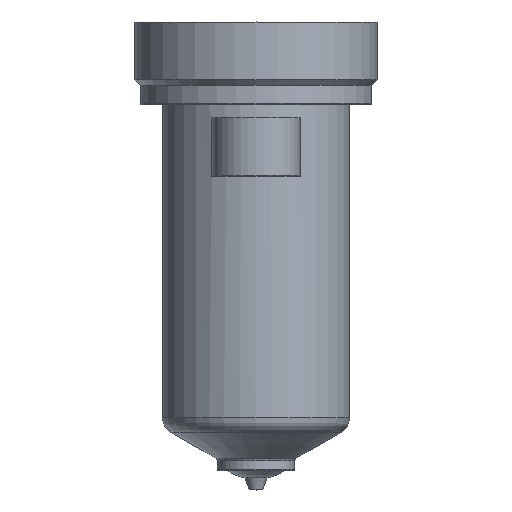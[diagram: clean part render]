
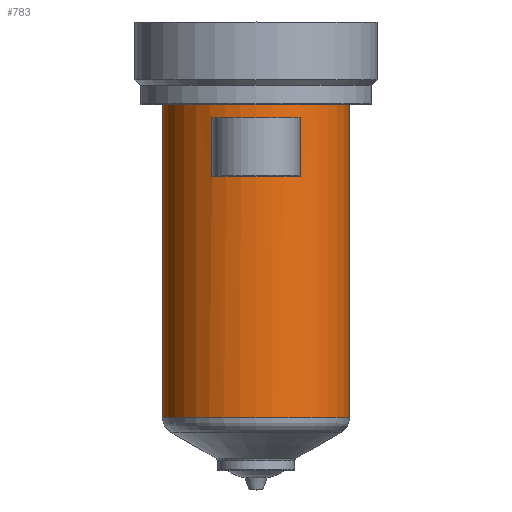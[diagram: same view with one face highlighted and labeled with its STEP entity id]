
A CAD part, top view. The second image highlights one B-rep face of the part: STEP entity #783.
In plain terms, the highlighted cylindrical face has radius 17 mm (diameter 34 mm), a partial arc.
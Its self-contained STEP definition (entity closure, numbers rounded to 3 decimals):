
#191=DIRECTION('',(0.,-1.,0.));
#192=VECTOR('',#191,56.906);
#193=CARTESIAN_POINT('',(17.,0.,0.));
#194=LINE('',#193,#192);
#195=CARTESIAN_POINT('',(0.,-56.906,0.));
#196=DIRECTION('',(0.,1.,0.));
#197=DIRECTION('',(-1.,0.,0.));
#198=AXIS2_PLACEMENT_3D('',#195,#196,#197);
#200=DIRECTION('',(0.,1.,0.));
#201=VECTOR('',#200,56.906);
#202=CARTESIAN_POINT('',(-17.,-56.906,0.));
#203=LINE('',#202,#201);
#204=CARTESIAN_POINT('',(0.,0.,0.));
#205=DIRECTION('',(0.,1.,0.));
#206=DIRECTION('',(-1.,0.,0.));
#207=AXIS2_PLACEMENT_3D('',#204,#205,#206);
#353=DIRECTION('',(0.,1.,0.));
#354=VECTOR('',#353,10.5);
#355=CARTESIAN_POINT('',(-8.,-13.,15.));
#356=LINE('',#355,#354);
#357=CARTESIAN_POINT('',(0.,-13.,0.));
#358=DIRECTION('',(0.,1.,0.));
#359=DIRECTION('',(-0.471,0.,0.882));
#360=AXIS2_PLACEMENT_3D('',#357,#358,#359);
#383=CARTESIAN_POINT('',(0.,-2.5,0.));
#384=DIRECTION('',(0.,-1.,0.));
#385=DIRECTION('',(0.471,0.,0.882));
#386=AXIS2_PLACEMENT_3D('',#383,#384,#385);
#401=DIRECTION('',(0.,1.,0.));
#402=VECTOR('',#401,10.5);
#403=CARTESIAN_POINT('',(8.,-13.,15.));
#404=LINE('',#403,#402);
#462=CARTESIAN_POINT('',(-17.,0.,0.));
#463=CARTESIAN_POINT('',(17.,0.,0.));
#464=VERTEX_POINT('',#462);
#465=VERTEX_POINT('',#463);
#474=CARTESIAN_POINT('',(-8.,-2.5,15.));
#475=VERTEX_POINT('',#474);
#476=CARTESIAN_POINT('',(8.,-2.5,15.));
#477=VERTEX_POINT('',#476);
#514=CARTESIAN_POINT('',(17.,-56.906,0.));
#515=VERTEX_POINT('',#514);
#524=CARTESIAN_POINT('',(-17.,-56.906,0.));
#525=VERTEX_POINT('',#524);
#542=CARTESIAN_POINT('',(-8.,-13.,15.));
#543=CARTESIAN_POINT('',(8.,-13.,15.));
#544=VERTEX_POINT('',#542);
#545=VERTEX_POINT('',#543);
#761=CARTESIAN_POINT('',(0.,16.4,0.));
#762=DIRECTION('',(0.,-1.,0.));
#763=DIRECTION('',(-1.,0.,0.));
#764=AXIS2_PLACEMENT_3D('',#761,#762,#763);
#765=CYLINDRICAL_SURFACE('',#764,17.);
#766=ORIENTED_EDGE('',*,*,#755,.T.);
#768=ORIENTED_EDGE('',*,*,#767,.F.);
#769=ORIENTED_EDGE('',*,*,#751,.T.);
#770=ORIENTED_EDGE('',*,*,#741,.T.);
#771=EDGE_LOOP('',(#766,#768,#769,#770));
#772=FACE_OUTER_BOUND('',#771,.F.);
#774=ORIENTED_EDGE('',*,*,#773,.F.);
#776=ORIENTED_EDGE('',*,*,#775,.T.);
#778=ORIENTED_EDGE('',*,*,#777,.T.);
#780=ORIENTED_EDGE('',*,*,#779,.T.);
#781=EDGE_LOOP('',(#774,#776,#778,#780));
#782=FACE_BOUND('',#781,.F.);
#783=ADVANCED_FACE('',(#772,#782),#765,.T.);
#199=CIRCLE('',#198,17.);
#208=CIRCLE('',#207,17.);
#361=CIRCLE('',#360,17.);
#387=CIRCLE('',#386,17.);
#741=EDGE_CURVE('',#464,#465,#208,.T.);
#751=EDGE_CURVE('',#525,#464,#203,.T.);
#755=EDGE_CURVE('',#465,#515,#194,.T.);
#767=EDGE_CURVE('',#525,#515,#199,.T.);
#773=EDGE_CURVE('',#544,#475,#356,.T.);
#775=EDGE_CURVE('',#544,#545,#361,.T.);
#777=EDGE_CURVE('',#545,#477,#404,.T.);
#779=EDGE_CURVE('',#477,#475,#387,.T.);
